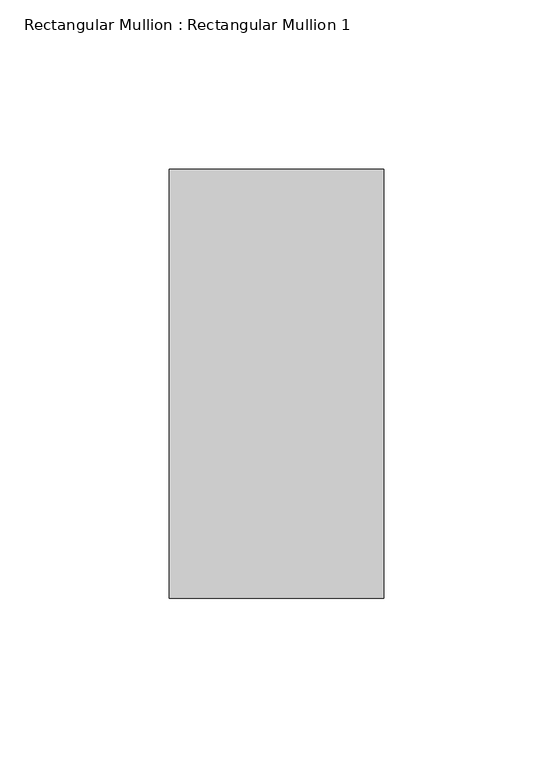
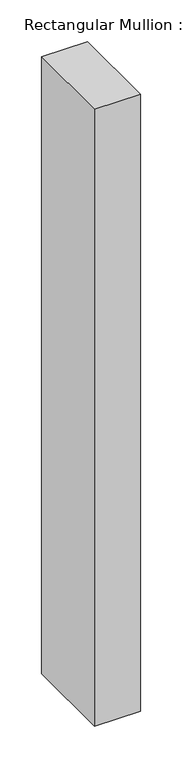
"""IFC4 building model written with IfcOpenShell, lengths in millimetres: member geometry, Rectangular Mullion : Rectangular Mullion 1."""

from ifc_helpers import new_model, si_unit, frame, origin, place, context, project, spatial, polyline, outline, extrude, source, transform, mapped, element, save


def rectangular_mullion_rectangular_mullion_1_ba4685a1(model_context):
    return source(origin(), model_context, "Body", "SweptSolid", [
        extrude(outline(polyline([(0.0, 63.5), (0.0, -63.5), (-63.5, -63.5), (-63.5, 63.5), (0.0, 63.5)])), frame((0.0, 0.0, -902.9257062), z_axis=(0.0, 0.0, 1.0), x_axis=(1.0, 0.0, 0.0)), (0.0, 0.0, 1.0), 902.9257062),
    ])


if __name__ == "__main__":
    model = new_model("IFC4")
    model_context = context("Model", 3, world=origin())
    ifc_project = project(units=[si_unit("LENGTHUNIT", "METRE", prefix="MILLI")], contexts=[model_context])
    site = spatial("IfcSite", under=ifc_project)
    building = spatial("IfcBuilding", under=site)
    placement = place(None, origin())
    rectangular_mullion_rectangular_mullion_1_shape = rectangular_mullion_rectangular_mullion_1_ba4685a1(model_context)
    element("IfcMember", 1, ObjectType="Rectangular Mullion : Rectangular Mullion 1", at=placement, inside=building, context=model_context, shape_type="MappedRepresentation", body=[
        mapped(rectangular_mullion_rectangular_mullion_1_shape, transform((0.0, 0.0, 0.0), x_axis=(1.0, 0.0, 0.0), y_axis=(0.0, 1.0, 0.0), z_axis=(0.0, 0.0, 1.0))),
    ])
    save(model, "model.ifc")
